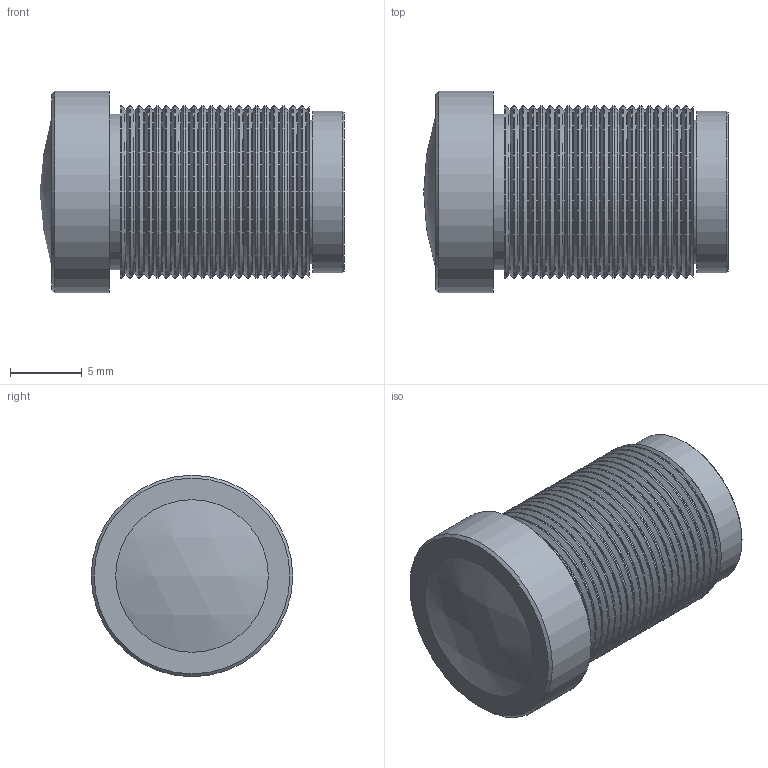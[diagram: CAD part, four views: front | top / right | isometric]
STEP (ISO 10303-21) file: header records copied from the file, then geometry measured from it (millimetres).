
FILE_DESCRIPTION (( 'STEP AP214' ), '1' );
FILE_NAME ('AB02920MGC.STEP', '2025-08-20T08:52:07', ( '' ), ( '' ), 'SwSTEP 2.0', 'SolidWorks 2023', '' );
FILE_SCHEMA (( 'AUTOMOTIVE_DESIGN' ));
Length unit declared in the file: millimetre
Products named in the file (1): AB02920MGC
Bounding box: 21.16 x 14 x 14 mm (x, y, z)
Volume: 2367.7 mm3; surface area: 1381.6 mm2
Topology: 1 solids, 1 shells, 97 faces, 186 edges, 96 vertices
Faces by surface type: cylinder 46, cone 44, plane 6, sphere 1
Full cylindrical faces by diameter (mm): 10 x1, 10.8 x1, 11.2 x1, 11.4 x21, 12 x21, 14 x1
Entity records: 1957 total; most frequent: DIRECTION 388, CARTESIAN_POINT 290, AXIS2_PLACEMENT_3D 194, EDGE_LOOP 192, ORIENTED_EDGE 192, FACE_OUTER_BOUND 143, ADVANCED_FACE 97, EDGE_CURVE 96
